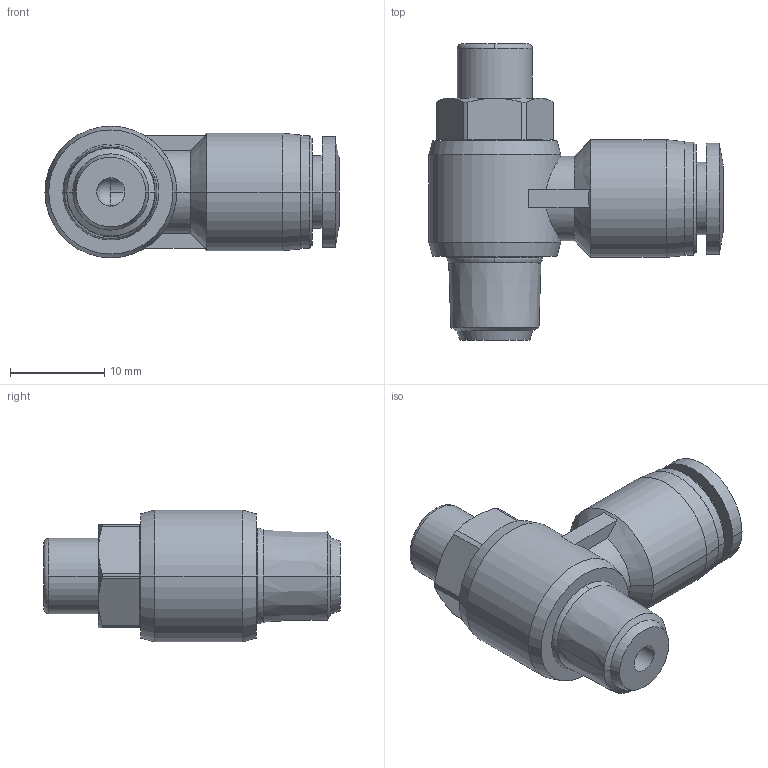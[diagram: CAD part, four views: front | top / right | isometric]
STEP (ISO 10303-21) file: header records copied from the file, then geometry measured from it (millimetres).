
FILE_DESCRIPTION (( 'STEP AP203' ), '1' );
FILE_NAME ('SCLF06-01.STEP', '2020-05-13T17:29:02', ( '' ), ( '' ), 'SwSTEP 2.0', 'SolidWorks 2019', '' );
FILE_SCHEMA (( 'CONFIG_CONTROL_DESIGN' ));
Length unit declared in the file: millimetre
Products named in the file (1): SCLF06-01
Bounding box: 31.25 x 31.5 x 14 mm (x, y, z)
Volume: 4397 mm3; surface area: 2996.3 mm2
Topology: 1 solids, 1 shells, 125 faces, 298 edges, 183 vertices
Faces by surface type: plane 45, cylinder 41, cone 32, torus 4, bspline 2, sphere 1
Entity records: 3841 total; most frequent: CARTESIAN_POINT 860, DIRECTION 650, ORIENTED_EDGE 590, EDGE_CURVE 295, AXIS2_PLACEMENT_3D 261, VERTEX_POINT 183, EDGE_LOOP 138, CIRCLE 137
